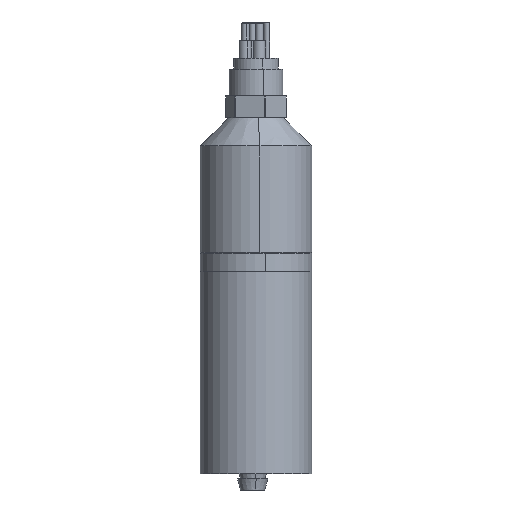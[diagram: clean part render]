
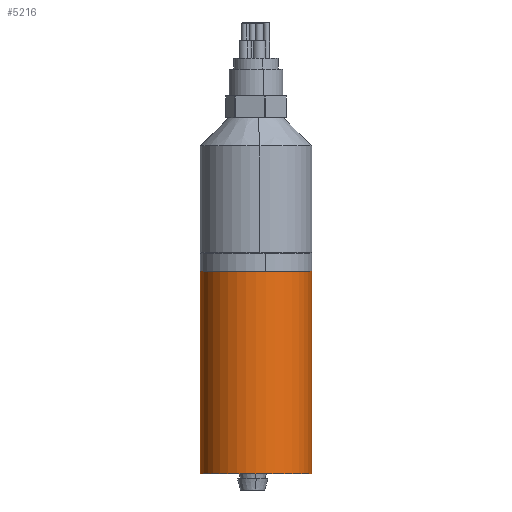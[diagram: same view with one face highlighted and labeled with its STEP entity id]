
A CAD part, front view. The second image highlights one B-rep face of the part: STEP entity #5216.
In plain terms, the highlighted cylindrical face has radius 19.558 mm (diameter 39.116 mm), a partial arc.
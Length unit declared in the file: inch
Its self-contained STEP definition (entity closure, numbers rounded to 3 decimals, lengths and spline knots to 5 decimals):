
#422 = CYLINDRICAL_SURFACE ( 'NONE', #2389, 0.77 ) ;
#791 = CARTESIAN_POINT ( 'NONE',  ( -0.77, 0., -2.79 ) ) ;
#1043 = CIRCLE ( 'NONE', #1571, 0.77 ) ;
#1277 = VERTEX_POINT ( 'NONE', #4946 ) ;
#1281 = CARTESIAN_POINT ( 'NONE',  ( 0.77, 0., 0. ) ) ;
#1463 = CARTESIAN_POINT ( 'NONE',  ( 0., 0., 0. ) ) ;
#1571 = AXIS2_PLACEMENT_3D ( 'NONE', #3185, #4583, #3248 ) ;
#1736 = EDGE_CURVE ( 'NONE', #1277, #5868, #5891, .T. ) ;
#1817 = ORIENTED_EDGE ( 'NONE', *, *, #4979, .T. ) ;
#1847 = DIRECTION ( 'NONE',  ( 0., 0., 1. ) ) ;
#1903 = CARTESIAN_POINT ( 'NONE',  ( 0., 0., 0. ) ) ;
#1945 = CARTESIAN_POINT ( 'NONE',  ( 0.77, 0., -2.79 ) ) ;
#2016 = EDGE_LOOP ( 'NONE', ( #2474, #4403, #1817, #5889 ) ) ;
#2389 = AXIS2_PLACEMENT_3D ( 'NONE', #1463, #6470, #2984 ) ;
#2397 = DIRECTION ( 'NONE',  ( 0., 0., 1. ) ) ;
#2454 = FACE_OUTER_BOUND ( 'NONE', #2016, .T. ) ;
#2474 = ORIENTED_EDGE ( 'NONE', *, *, #5621, .F. ) ;
#2984 = DIRECTION ( 'NONE',  ( 1., 0., 0. ) ) ;
#3185 = CARTESIAN_POINT ( 'NONE',  ( 0., 0., -2.79 ) ) ;
#3248 = DIRECTION ( 'NONE',  ( 1., 0., 0. ) ) ;
#3585 = VERTEX_POINT ( 'NONE', #1945 ) ;
#3709 = CARTESIAN_POINT ( 'NONE',  ( 0.77, 0., 0. ) ) ;
#3898 = AXIS2_PLACEMENT_3D ( 'NONE', #1903, #2397, #4450 ) ;
#3942 = CARTESIAN_POINT ( 'NONE',  ( -0.77, 0., 0. ) ) ;
#4293 = LINE ( 'NONE', #1281, #5727 ) ;
#4329 = DIRECTION ( 'NONE',  ( 0., 0., 1. ) ) ;
#4399 = EDGE_CURVE ( 'NONE', #4530, #3585, #1043, .T. ) ;
#4403 = ORIENTED_EDGE ( 'NONE', *, *, #4399, .T. ) ;
#4450 = DIRECTION ( 'NONE',  ( 1., 0., 0. ) ) ;
#4530 = VERTEX_POINT ( 'NONE', #791 ) ;
#4583 = DIRECTION ( 'NONE',  ( 0., 0., 1. ) ) ;
#4946 = CARTESIAN_POINT ( 'NONE',  ( -0.77, 0., 0. ) ) ;
#4979 = EDGE_CURVE ( 'NONE', #3585, #5868, #4293, .T. ) ;
#5216 = ADVANCED_FACE ( 'NONE', ( #2454 ), #422, .T. ) ;
#5621 = EDGE_CURVE ( 'NONE', #4530, #1277, #5944, .T. ) ;
#5727 = VECTOR ( 'NONE', #4329, 39.37008 ) ;
#5868 = VERTEX_POINT ( 'NONE', #3709 ) ;
#5889 = ORIENTED_EDGE ( 'NONE', *, *, #1736, .F. ) ;
#5891 = CIRCLE ( 'NONE', #3898, 0.77 ) ;
#5944 = LINE ( 'NONE', #3942, #5951 ) ;
#5951 = VECTOR ( 'NONE', #1847, 39.37008 ) ;
#6470 = DIRECTION ( 'NONE',  ( 0., 0., 1. ) ) ;
